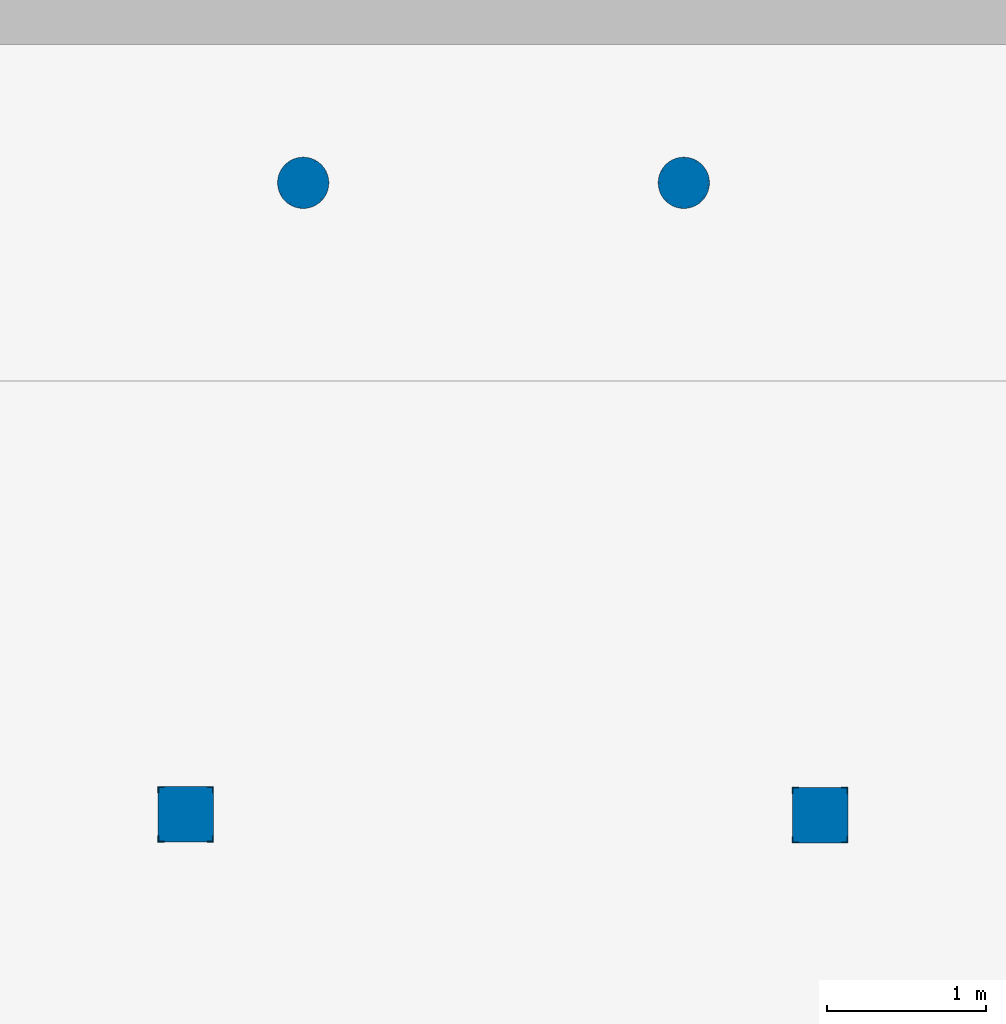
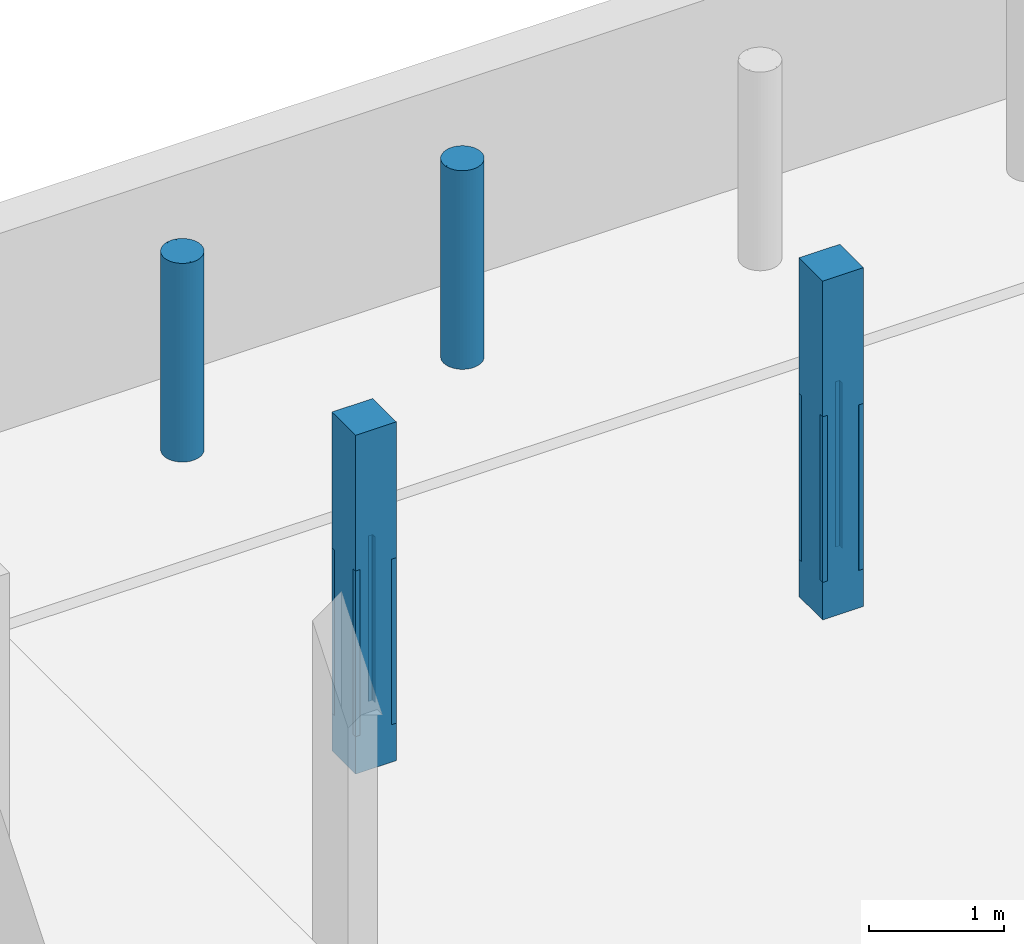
# One storey, part 20 of 42: 12 columns.
"""IFC2X3 building model written with IfcOpenShell, lengths in millimetres."""

from ifc_helpers import new_model, entity, si_unit, converted_unit, derived_unit, direction, frame, frame_2d, origin, origin_2d_with_axis, place, context, subcontext, project, spatial, polyline, circle_curve, parameter, trimmed, segment, composite_curve, rectangle, circle, hollow_circle, outline, extrude, source, transform, mapped, material, material_list, type_object, type_shapes, element, save


model = new_model("IFC2X3")

# Units and contexts
model_context = context("Model", 3, precision=0.01, world=origin(), true_north=direction((6.12303176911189e-17, 1.0)))
body_context = subcontext(model_context, "Body", "Model", "MODEL_VIEW")
ifc_project = project(units=[si_unit("LENGTHUNIT", "METRE", prefix="MILLI"), si_unit("AREAUNIT", "SQUARE_METRE", prefix="MILLI"), si_unit("VOLUMEUNIT", "CUBIC_METRE"), converted_unit("PLANEANGLEUNIT", "DEGREE", entity("IfcRatioMeasure", 0.0174532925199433), si_unit("PLANEANGLEUNIT", "RADIAN"), dimensions=[0, 0, 0, 0, 0, 0, 0]), si_unit("MASSUNIT", "GRAM", prefix="KILO"), derived_unit("MASSDENSITYUNIT", [(si_unit("MASSUNIT", "GRAM", prefix="KILO"), 1), (si_unit("LENGTHUNIT", "METRE"), -3)]), derived_unit("MOMENTOFINERTIAUNIT", [(si_unit("LENGTHUNIT", "METRE"), 4)]), si_unit("TIMEUNIT", "SECOND"), si_unit("FREQUENCYUNIT", "HERTZ"), si_unit("THERMODYNAMICTEMPERATUREUNIT", "DEGREE_CELSIUS"), derived_unit("THERMALTRANSMITTANCEUNIT", [(si_unit("MASSUNIT", "GRAM", prefix="KILO"), 1), (si_unit("THERMODYNAMICTEMPERATUREUNIT", "KELVIN"), -1), (si_unit("TIMEUNIT", "SECOND"), -3)]), derived_unit("VOLUMETRICFLOWRATEUNIT", [(si_unit("LENGTHUNIT", "METRE"), 3), (si_unit("TIMEUNIT", "SECOND"), -1)]), si_unit("ELECTRICCURRENTUNIT", "AMPERE"), si_unit("ELECTRICVOLTAGEUNIT", "VOLT"), si_unit("POWERUNIT", "WATT"), si_unit("FORCEUNIT", "NEWTON", prefix="KILO"), si_unit("ILLUMINANCEUNIT", "LUX"), si_unit("LUMINOUSFLUXUNIT", "LUMEN"), si_unit("LUMINOUSINTENSITYUNIT", "CANDELA"), derived_unit("USERDEFINED", [(si_unit("MASSUNIT", "GRAM", prefix="KILO"), -1), (si_unit("LENGTHUNIT", "METRE"), -2), (si_unit("TIMEUNIT", "SECOND"), 3), (si_unit("LUMINOUSFLUXUNIT", "LUMEN"), 1)]), derived_unit("LINEARVELOCITYUNIT", [(si_unit("LENGTHUNIT", "METRE"), 1), (si_unit("TIMEUNIT", "SECOND"), -1)]), si_unit("PRESSUREUNIT", "PASCAL"), derived_unit("USERDEFINED", [(si_unit("LENGTHUNIT", "METRE"), -2), (si_unit("MASSUNIT", "GRAM", prefix="KILO"), 1), (si_unit("TIMEUNIT", "SECOND"), -2)]), derived_unit("LINEARFORCEUNIT", [(si_unit("MASSUNIT", "GRAM", prefix="KILO"), 1), (si_unit("LENGTHUNIT", "METRE"), 1), (si_unit("TIMEUNIT", "SECOND"), -2), (si_unit("LENGTHUNIT", "METRE"), -1)]), derived_unit("PLANARFORCEUNIT", [(si_unit("MASSUNIT", "GRAM", prefix="KILO"), 1), (si_unit("LENGTHUNIT", "METRE"), 1), (si_unit("TIMEUNIT", "SECOND"), -2), (si_unit("LENGTHUNIT", "METRE"), -2)])], contexts=[model_context])

# Site, building, storey
site_placement = place(None, origin())
site = spatial("IfcSite", under=ifc_project, at=site_placement, Name="Theater aan de Parade", CompositionType="ELEMENT")
building_placement = place(site_placement, origin())
building = spatial("IfcBuilding", under=site, at=building_placement, Name="Theater aan de Parade", CompositionType="ELEMENT")
storey_placement = place(building_placement, frame((0.0, 0.0, -3300.0)))
storey = spatial("IfcBuildingStorey", under=building, at=storey_placement, Name="-1 kelder", CompositionType="ELEMENT", Elevation=-3300.0)

# Columns
ifc_material_1 = material(Name="00_PBT_MAT_beton t.p.g.")
column_type_1 = type_object("IfcColumnType", Name="28_PBT_SC_beton_rechthoekig:350x350_bestaand", PredefinedType="COLUMN", material=ifc_material_1)
shared_shape_1 = source(origin(), body_context, "Body", "SweptSolid", [
    extrude(rectangle(XDim=350.000000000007, YDim=350.000000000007, at=origin_2d_with_axis()), frame((74945.0, 44965.0, -2640.0), z_axis=(0.0, 0.0, 1.0), x_axis=(0.0, -1.0, 0.0)), (0.0, 0.0, 1.0), 3070.0000000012),
])
type_shapes(column_type_1, [shared_shape_1])
column_1_placement = place(storey_placement, frame((0.0, 0.0, 3300.0)))
element("IfcColumn", 1, at=column_1_placement, inside=storey, type_object=column_type_1, material=ifc_material_1, Name="28_PBT_SC_beton_rechthoekig:350x350_bestaand", ObjectType="28_PBT_SC_beton_rechthoekig:350x350_bestaand", context=body_context, shape_type="MappedRepresentation", body=[
    mapped(shared_shape_1, transform((0.0, 0.0, 0.0), scale=1.0)),
])
column_type_2 = type_object("IfcColumnType", Name="28_PBT_SC_beton_rechthoekig:350x350_bestaand", PredefinedType="COLUMN", material=ifc_material_1)
shared_shape_2 = source(origin(), body_context, "Body", "SweptSolid", [
    extrude(rectangle(XDim=350.000000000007, YDim=349.99999999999, at=origin_2d_with_axis()), frame((78945.0, 44960.0, -2640.0), z_axis=(0.0, 0.0, 1.0), x_axis=(0.0, -1.0, 0.0)), (0.0, 0.0, 1.0), 3070.0000000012),
])
type_shapes(column_type_2, [shared_shape_2])
column_2_placement = place(storey_placement, frame((0.0, 0.0, 3300.0)))
element("IfcColumn", 2, at=column_2_placement, inside=storey, type_object=column_type_2, material=ifc_material_1, Name="28_PBT_SC_beton_rechthoekig:350x350_bestaand", ObjectType="28_PBT_SC_beton_rechthoekig:350x350_bestaand", context=body_context, shape_type="MappedRepresentation", body=[
    mapped(shared_shape_2, transform((0.0, 0.0, 0.0), scale=1.0)),
])
ifc_material_2 = material(Name="00_PBT_MAT_staal")
column_type_3 = type_object("IfcColumnType", Name="28_PBT_SC_staal_L-profiel:L40x40x4_bestaand", PredefinedType="COLUMN", material=ifc_material_2)
shared_shape_3 = source(origin(), body_context, "Body", "SweptSolid", [
    extrude(outline(composite_curve([segment(polyline([(-15.1111111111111, -15.1111111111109), (24.8888888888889, -15.1111111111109)]), True, "CONTINUOUS"), segment(polyline([(24.8888888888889, -15.1111111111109), (24.8888888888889, -14.1111111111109)]), True, "CONTINUOUS"), segment(trimmed(circle_curve(frame_2d((21.8888888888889, -14.1111111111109), x_axis=(1.0, 0.0)), 3.0), [parameter(0.0)], [parameter(90.0000000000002)], True, "PARAMETER"), True, "CONTINUOUS"), segment(polyline([(21.8888888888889, -11.1111111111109), (-5.11111111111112, -11.1111111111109)]), True, "CONTINUOUS"), segment(trimmed(circle_curve(frame_2d((-5.11111111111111, -5.11111111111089), x_axis=(0.0, -1.0)), 6.0), [parameter(270.0)], [parameter(0.0)], True, "PARAMETER"), False, "CONTINUOUS"), segment(polyline([(-11.1111111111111, -5.11111111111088), (-11.1111111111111, 21.8888888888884)]), True, "CONTINUOUS"), segment(trimmed(circle_curve(frame_2d((-14.1111111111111, 21.8888888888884), x_axis=(1.0, 0.0)), 3.0), [parameter(0.0)], [parameter(90.0000000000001)], True, "PARAMETER"), True, "CONTINUOUS"), segment(polyline([(-14.1111111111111, 24.8888888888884), (-15.1111111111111, 24.8888888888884)]), True, "CONTINUOUS"), segment(polyline([(-15.1111111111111, 24.8888888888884), (-15.1111111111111, -15.1111111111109)]), True, "CONTINUOUS")], self_intersect=False)), frame((3.91111111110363, -3.9111111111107, -2300.0), z_axis=(0.0, 0.0, 1.0), x_axis=(0.0, -1.0, 0.0)), (0.0, 0.0, 1.0), 1500.0),
])
type_shapes(column_type_3, [shared_shape_3])
column_3_placement = place(storey_placement, frame((74781.2000000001, 45128.7999999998, 3300.0)))
element("IfcColumn", 3, at=column_3_placement, inside=storey, type_object=column_type_3, material=ifc_material_2, Name="28_PBT_SC_staal_L-profiel:L40x40x4_bestaand", ObjectType="28_PBT_SC_staal_L-profiel:L40x40x4_bestaand", context=body_context, shape_type="MappedRepresentation", body=[
    mapped(shared_shape_3, transform((0.0, 0.0, 0.0), scale=1.0)),
])
column_4_placement = place(storey_placement, frame((75108.8, 44801.1999999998, 3300.0), z_axis=(0.0, 0.0, 1.0), x_axis=(-1.0, 0.0, 0.0)))
element("IfcColumn", 4, at=column_4_placement, inside=storey, type_object=column_type_3, material=ifc_material_2, Name="28_PBT_SC_staal_L-profiel:L40x40x4_bestaand", ObjectType="28_PBT_SC_staal_L-profiel:L40x40x4_bestaand", context=body_context, shape_type="MappedRepresentation", body=[
    mapped(shared_shape_3, transform((0.0, 0.0, 0.0), scale=1.0)),
])
column_5_placement = place(storey_placement, frame((78781.2000000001, 45123.7999999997, 3300.0)))
element("IfcColumn", 5, at=column_5_placement, inside=storey, type_object=column_type_3, material=ifc_material_2, Name="28_PBT_SC_staal_L-profiel:L40x40x4_bestaand", ObjectType="28_PBT_SC_staal_L-profiel:L40x40x4_bestaand", context=body_context, shape_type="MappedRepresentation", body=[
    mapped(shared_shape_3, transform((0.0, 0.0, 0.0), scale=1.0)),
])
column_6_placement = place(storey_placement, frame((79108.8, 44796.1999999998, 3300.0), z_axis=(0.0, 0.0, 1.0), x_axis=(-1.0, 0.0, 0.0)))
element("IfcColumn", 6, at=column_6_placement, inside=storey, type_object=column_type_3, material=ifc_material_2, Name="28_PBT_SC_staal_L-profiel:L40x40x4_bestaand", ObjectType="28_PBT_SC_staal_L-profiel:L40x40x4_bestaand", context=body_context, shape_type="MappedRepresentation", body=[
    mapped(shared_shape_3, transform((0.0, 0.0, 0.0), scale=1.0)),
])
column_type_4 = type_object("IfcColumnType", Name="28_PBT_SC_staal_L-profiel:L40x40x4_bestaand", PredefinedType="COLUMN", material=ifc_material_2)
shared_shape_4 = source(origin(), body_context, "Body", "SweptSolid", [
    extrude(outline(composite_curve([segment(polyline([(-24.8888888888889, -15.1111111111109), (15.1111111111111, -15.1111111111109)]), True, "CONTINUOUS"), segment(polyline([(15.1111111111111, -15.1111111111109), (15.1111111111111, 24.8888888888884)]), True, "CONTINUOUS"), segment(polyline([(15.1111111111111, 24.8888888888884), (14.1111111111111, 24.8888888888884)]), True, "CONTINUOUS"), segment(trimmed(circle_curve(frame_2d((14.1111111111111, 21.8888888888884), x_axis=(0.0, 1.0)), 3.0), [parameter(0.0)], [parameter(89.9999999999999)], True, "PARAMETER"), True, "CONTINUOUS"), segment(polyline([(11.1111111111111, 21.8888888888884), (11.1111111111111, -5.11111111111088)]), True, "CONTINUOUS"), segment(trimmed(circle_curve(frame_2d((5.1111111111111, -5.1111111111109), x_axis=(1.0, 0.0)), 6.0), [parameter(270.0)], [parameter(0.0)], True, "PARAMETER"), False, "CONTINUOUS"), segment(polyline([(5.11111111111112, -11.1111111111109), (-21.8888888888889, -11.1111111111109)]), True, "CONTINUOUS"), segment(trimmed(circle_curve(frame_2d((-21.8888888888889, -14.1111111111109), x_axis=(0.0, 1.0)), 3.0), [parameter(0.0)], [parameter(90.0000000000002)], True, "PARAMETER"), True, "CONTINUOUS"), segment(polyline([(-24.8888888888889, -14.1111111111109), (-24.8888888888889, -15.1111111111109)]), True, "CONTINUOUS")], self_intersect=False)), frame((3.91111111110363, 3.91111111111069, -2300.0), z_axis=(0.0, 0.0, 1.0), x_axis=(0.0, -1.0, 0.0)), (0.0, 0.0, 1.0), 1500.0),
])
type_shapes(column_type_4, [shared_shape_4])
column_7_placement = place(storey_placement, frame((75108.8, 45128.7999999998, 3300.0), z_axis=(0.0, 0.0, 1.0), x_axis=(-1.0, 0.0, 0.0)))
element("IfcColumn", 7, at=column_7_placement, inside=storey, type_object=column_type_4, material=ifc_material_2, Name="28_PBT_SC_staal_L-profiel:L40x40x4_bestaand", ObjectType="28_PBT_SC_staal_L-profiel:L40x40x4_bestaand", context=body_context, shape_type="MappedRepresentation", body=[
    mapped(shared_shape_4, transform((0.0, 0.0, 0.0), scale=1.0)),
])
column_8_placement = place(storey_placement, frame((74781.2000000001, 44801.1999999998, 3300.0)))
element("IfcColumn", 8, at=column_8_placement, inside=storey, type_object=column_type_4, material=ifc_material_2, Name="28_PBT_SC_staal_L-profiel:L40x40x4_bestaand", ObjectType="28_PBT_SC_staal_L-profiel:L40x40x4_bestaand", context=body_context, shape_type="MappedRepresentation", body=[
    mapped(shared_shape_4, transform((0.0, 0.0, 0.0), scale=1.0)),
])
column_9_placement = place(storey_placement, frame((79108.8, 45123.7999999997, 3300.0), z_axis=(0.0, 0.0, 1.0), x_axis=(-1.0, 0.0, 0.0)))
element("IfcColumn", 9, at=column_9_placement, inside=storey, type_object=column_type_4, material=ifc_material_2, Name="28_PBT_SC_staal_L-profiel:L40x40x4_bestaand", ObjectType="28_PBT_SC_staal_L-profiel:L40x40x4_bestaand", context=body_context, shape_type="MappedRepresentation", body=[
    mapped(shared_shape_4, transform((0.0, 0.0, 0.0), scale=1.0)),
])
column_10_placement = place(storey_placement, frame((78781.2000000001, 44796.1999999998, 3300.0)))
element("IfcColumn", 10, at=column_10_placement, inside=storey, type_object=column_type_4, material=ifc_material_2, Name="28_PBT_SC_staal_L-profiel:L40x40x4_bestaand", ObjectType="28_PBT_SC_staal_L-profiel:L40x40x4_bestaand", context=body_context, shape_type="MappedRepresentation", body=[
    mapped(shared_shape_4, transform((0.0, 0.0, 0.0), scale=1.0)),
])
ifc_material_3 = material(Name="00_PBT_MAT_staal_S355")
ifc_material_4 = material(Name="00_PBT_MAT_beton t.p.g._C40/50")
ifc_material_list_1 = material_list([ifc_material_3, ifc_material_4])
ifc_material_list_2 = material_list([ifc_material_3, ifc_material_4])
column_type_5 = type_object("IfcColumnType", Name="28_PBT_SC_staal_buis:S355_B323.9x10_GB_C40/50", PredefinedType="COLUMN", material=ifc_material_list_2)
shared_shape_5 = source(origin(), body_context, "Body", "SweptSolid", [
    extrude(hollow_circle(Radius=161.95, WallThickness=9.99999999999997, at=frame_2d((1.77837538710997e-15, -2.97621380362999e-13), x_axis=(1.0, 0.0))), frame((0.0, 0.0, -2540.0), z_axis=(0.0, 0.0, 1.0), x_axis=(-1.0, 0.0, 0.0)), (0.0, 0.0, 1.0), 1800.00000000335),
    extrude(circle(Radius=151.95, at=frame_2d((-6.17986865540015e-15, 1.29141200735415e-12), x_axis=(1.0, 0.0))), frame((0.0, 0.0, -2540.0)), (0.0, 0.0, 1.0), 1800.00000000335),
])
type_shapes(column_type_5, [shared_shape_5])
column_11_placement = place(storey_placement, frame((78085.8127325, 48947.0, 3300.0)))
element("IfcColumn", 11, at=column_11_placement, inside=storey, type_object=column_type_5, material=ifc_material_list_1, Name="28_PBT_SC_staal_buis:S355_B323.9x10_GB_C40/50", ObjectType="28_PBT_SC_staal_buis:S355_B323.9x10_GB_C40/50", context=body_context, shape_type="MappedRepresentation", body=[
    mapped(shared_shape_5, transform((0.0, 0.0, 0.0), scale=1.0)),
])
ifc_material_list_3 = material_list([ifc_material_3, ifc_material_4])
column_12_placement = place(storey_placement, frame((75685.8127325, 48947.0, 3300.0)))
element("IfcColumn", 12, at=column_12_placement, inside=storey, type_object=column_type_5, material=ifc_material_list_3, Name="28_PBT_SC_staal_buis:S355_B323.9x10_GB_C40/50", ObjectType="28_PBT_SC_staal_buis:S355_B323.9x10_GB_C40/50", context=body_context, shape_type="MappedRepresentation", body=[
    mapped(shared_shape_5, transform((0.0, 0.0, 0.0), scale=1.0)),
])

save(model, "model.ifc")
